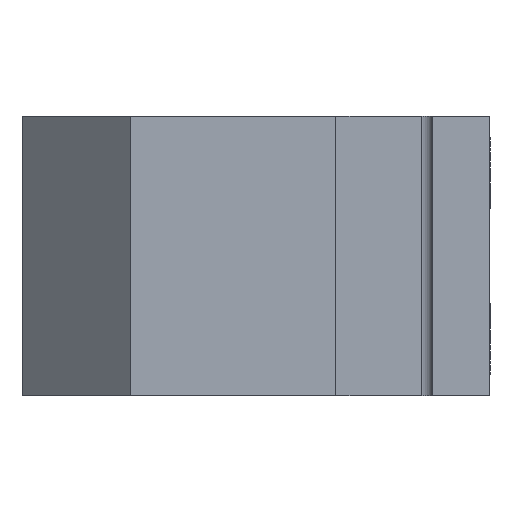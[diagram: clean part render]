
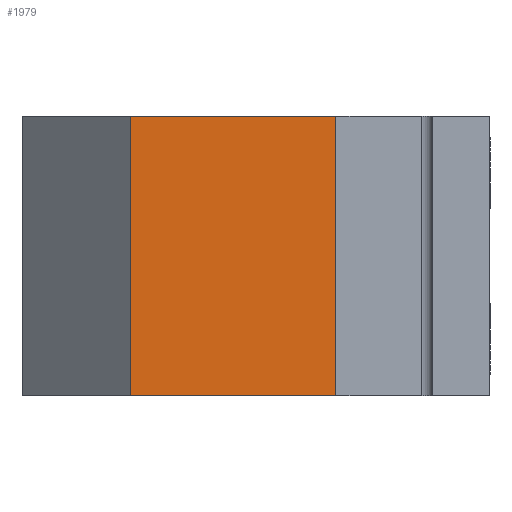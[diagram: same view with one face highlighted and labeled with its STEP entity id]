
A CAD part, left-side view. The second image highlights one B-rep face of the part: STEP entity #1979.
In plain terms, the highlighted planar face has unit normal (-1, 0, 0).
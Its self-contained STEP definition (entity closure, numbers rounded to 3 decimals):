
#85 = CARTESIAN_POINT ( 'NONE',  ( -36., 27., 24.5 ) ) ;
#145 = LINE ( 'NONE', #146, #147 ) ;
#146 = CARTESIAN_POINT ( 'NONE',  ( -36., 27., -24.5 ) ) ;
#147 = VECTOR ( 'NONE', #148, 1000. ) ;
#148 = DIRECTION ( 'NONE',  ( 0., -1., 0. ) ) ;
#187 = LINE ( 'NONE', #188, #189 ) ;
#188 = CARTESIAN_POINT ( 'NONE',  ( -36., 27., 24.5 ) ) ;
#189 = VECTOR ( 'NONE', #190, 1000. ) ;
#190 = DIRECTION ( 'NONE',  ( 0., -1., 0. ) ) ;
#214 = CARTESIAN_POINT ( 'NONE',  ( -36., 63., -24.5 ) ) ;
#427 = VERTEX_POINT ( 'NONE', #85 ) ;
#549 = LINE ( 'NONE', #550, #551 ) ;
#550 = CARTESIAN_POINT ( 'NONE',  ( -36., 27., 24.5 ) ) ;
#551 = VECTOR ( 'NONE', #552, 1000. ) ;
#552 = DIRECTION ( 'NONE',  ( 0., 0., -1. ) ) ;
#635 = EDGE_CURVE ( 'NONE', #1337, #427, #187, .T. ) ;
#740 = LINE ( 'NONE', #741, #742 ) ;
#741 = CARTESIAN_POINT ( 'NONE',  ( -36., 63., 24.5 ) ) ;
#742 = VECTOR ( 'NONE', #743, 1000. ) ;
#743 = DIRECTION ( 'NONE',  ( 0., 0., -1. ) ) ;
#782 = CARTESIAN_POINT ( 'NONE',  ( -36., 63., 24.5 ) ) ;
#1190 = CARTESIAN_POINT ( 'NONE',  ( -36., 27., -24.5 ) ) ;
#1204 = FACE_OUTER_BOUND ( 'NONE', #1705, .T. ) ;
#1205 = PLANE ( 'NONE',  #1206 ) ;
#1206 = AXIS2_PLACEMENT_3D ( 'NONE', #1207, #1208, #1209 ) ;
#1207 = CARTESIAN_POINT ( 'NONE',  ( -36., 27., 24.5 ) ) ;
#1208 = DIRECTION ( 'NONE',  ( 1., 0., 0. ) ) ;
#1209 = DIRECTION ( 'NONE',  ( 0., 0., -1. ) ) ;
#1337 = VERTEX_POINT ( 'NONE', #782 ) ;
#1453 = EDGE_CURVE ( 'NONE', #1475, #1975, #145, .T. ) ;
#1475 = VERTEX_POINT ( 'NONE', #214 ) ;
#1509 = ORIENTED_EDGE ( 'NONE', *, *, #1608, .T. ) ;
#1539 = ORIENTED_EDGE ( 'NONE', *, *, #635, .F. ) ;
#1553 = ORIENTED_EDGE ( 'NONE', *, *, #1554, .F. ) ;
#1554 = EDGE_CURVE ( 'NONE', #427, #1975, #549, .T. ) ;
#1573 = ORIENTED_EDGE ( 'NONE', *, *, #1453, .T. ) ;
#1608 = EDGE_CURVE ( 'NONE', #1337, #1475, #740, .T. ) ;
#1705 = EDGE_LOOP ( 'NONE', ( #1573, #1553, #1539, #1509 ) ) ;
#1975 = VERTEX_POINT ( 'NONE', #1190 ) ;
#1979 = ADVANCED_FACE ( 'NONE', ( #1204 ), #1205, .F. ) ;
